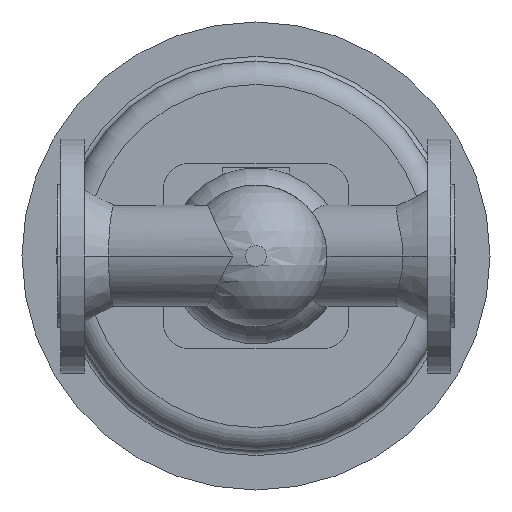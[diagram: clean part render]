
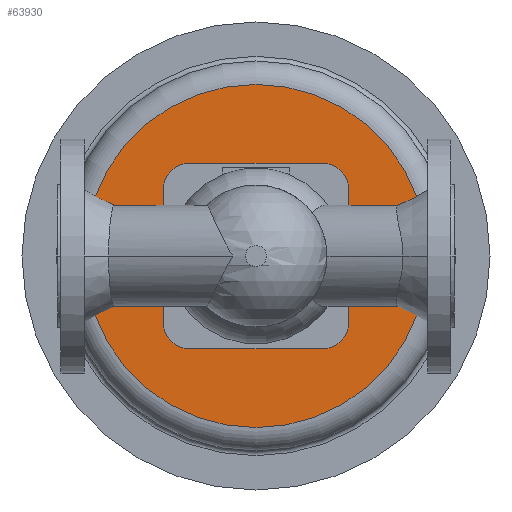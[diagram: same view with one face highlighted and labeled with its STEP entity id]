
A CAD part, front view. The second image highlights one B-rep face of the part: STEP entity #63930.
In plain terms, the highlighted planar face has unit normal (0, -1, 0).
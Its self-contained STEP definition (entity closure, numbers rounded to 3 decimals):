
#50140=CARTESIAN_POINT('',(243.5,620.5,0.));
#50150=VERTEX_POINT('',#50140);
#50180=CARTESIAN_POINT('',(133.5,620.5,0.));
#50190=DIRECTION('',(0.,1.,0.));
#50200=DIRECTION('',(1.,0.,0.));
#50210=AXIS2_PLACEMENT_3D('',#50180,#50190,#50200);
#50220=CIRCLE('',#50210,110.);
#50230=CARTESIAN_POINT('',(133.5,620.5,110.));
#50240=VERTEX_POINT('',#50230);
#50250=EDGE_CURVE('',#50240,#50150,#50220,.T.);
#50270=CARTESIAN_POINT('',(23.5,620.5,0.));
#50280=VERTEX_POINT('',#50270);
#50290=EDGE_CURVE('',#50280,#50240,#50220,.T.);
#50950=CARTESIAN_POINT('',(198.5,620.5,0.));
#50960=VERTEX_POINT('',#50950);
#50990=CARTESIAN_POINT('',(183.5,620.5,0.));
#51000=DIRECTION('',(0.,1.,0.));
#51010=DIRECTION('',(1.,0.,0.));
#51020=AXIS2_PLACEMENT_3D('',#50990,#51000,#51010);
#51030=CIRCLE('',#51020,15.);
#51040=CARTESIAN_POINT('',(168.5,620.5,0.));
#51050=VERTEX_POINT('',#51040);
#51060=EDGE_CURVE('',#50960,#51050,#51030,.T.);
#51370=CARTESIAN_POINT('',(98.5,620.5,0.));
#51380=VERTEX_POINT('',#51370);
#51540=CARTESIAN_POINT('',(68.5,620.5,0.));
#51550=VERTEX_POINT('',#51540);
#51580=CARTESIAN_POINT('',(83.5,620.5,0.));
#51590=DIRECTION('',(0.,1.,0.));
#51600=DIRECTION('',(1.,0.,0.));
#51610=AXIS2_PLACEMENT_3D('',#51580,#51590,#51600);
#51620=CIRCLE('',#51610,15.);
#51630=EDGE_CURVE('',#51550,#51380,#51620,.T.);
#51770=CARTESIAN_POINT('',(115.05,620.5,0.));
#51780=VERTEX_POINT('',#51770);
#51960=CARTESIAN_POINT('',(151.95,620.5,0.));
#51970=VERTEX_POINT('',#51960);
#52000=CARTESIAN_POINT('',(133.5,620.5,0.));
#52010=DIRECTION('',(0.,1.,0.));
#52020=DIRECTION('',(1.,0.,0.));
#52030=AXIS2_PLACEMENT_3D('',#52000,#52010,#52020);
#52040=CIRCLE('',#52030,18.45);
#52050=EDGE_CURVE('',#51970,#51780,#52040,.T.);
#63670=CARTESIAN_POINT('',(188.5,620.5,0.));
#63680=DIRECTION('',(0.,-1.,0.));
#63690=DIRECTION('',(-1.,0.,0.));
#63700=AXIS2_PLACEMENT_3D('',#63670,#63680,#63690);
#63710=PLANE('',#63700);
#63720=EDGE_CURVE('',#51780,#51970,#52040,.T.);
#63730=ORIENTED_EDGE('',*,*,#63720,.T.);
#63740=ORIENTED_EDGE('',*,*,#52050,.T.);
#63750=EDGE_LOOP('',(#63740,#63730));
#63760=FACE_BOUND('',#63750,.T.);
#63770=EDGE_CURVE('',#51380,#51550,#51620,.T.);
#63780=ORIENTED_EDGE('',*,*,#63770,.T.);
#63790=ORIENTED_EDGE('',*,*,#51630,.T.);
#63800=EDGE_LOOP('',(#63790,#63780));
#63810=FACE_BOUND('',#63800,.T.);
#63820=ORIENTED_EDGE('',*,*,#51060,.T.);
#63830=EDGE_CURVE('',#51050,#50960,#51030,.T.);
#63840=ORIENTED_EDGE('',*,*,#63830,.T.);
#63850=EDGE_LOOP('',(#63840,#63820));
#63860=FACE_BOUND('',#63850,.T.);
#63870=ORIENTED_EDGE('',*,*,#50250,.F.);
#63880=EDGE_CURVE('',#50150,#50280,#50220,.T.);
#63890=ORIENTED_EDGE('',*,*,#63880,.F.);
#63900=ORIENTED_EDGE('',*,*,#50290,.F.);
#63910=EDGE_LOOP('',(#63900,#63890,#63870));
#63920=FACE_OUTER_BOUND('',#63910,.T.);
#63930=ADVANCED_FACE('',(#63760,#63810,#63860,#63920),#63710,.T.);
